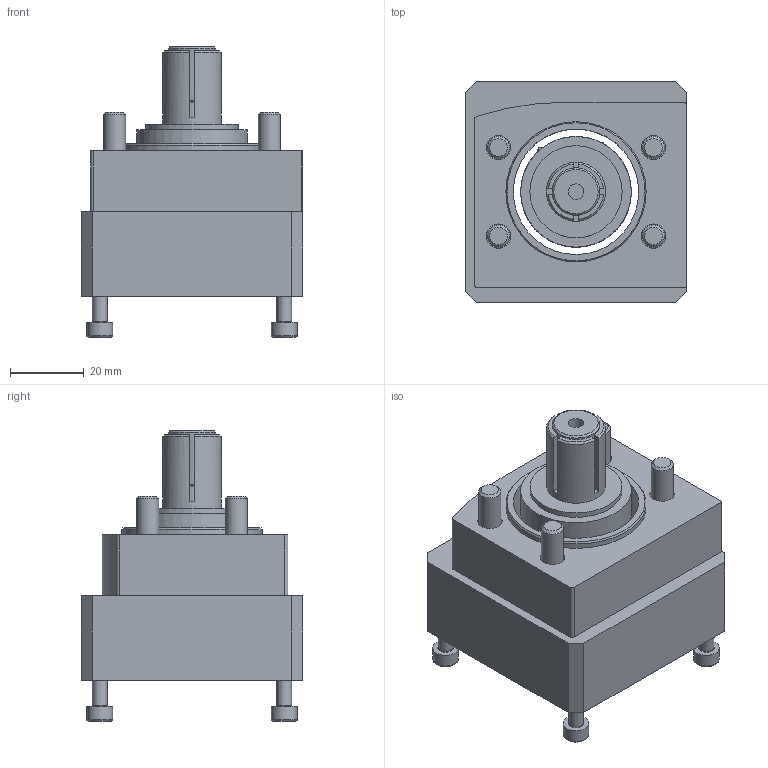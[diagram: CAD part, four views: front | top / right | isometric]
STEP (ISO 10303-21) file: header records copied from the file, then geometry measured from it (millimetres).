
FILE_DESCRIPTION(/* description */ ('EAMK-A O - Coupling housing'),/* implementation_level */ '2;1');
FILE_NAME(/* name */ 'C:\STORE\ホームページ用データ\\X2\30E230FC30BF53D64ED830AD30C330C8\X0\_2016_2016.12.01_\X2\8A2D8A08590966F45206\X0\\3D_STEP\J08243B.stp',/* time_stamp */ '2016-12-01T10:38:42+09:00',/* author */ ('jp0tot'),/* organization */ (''),/* preprocessor_version */ 'ST-DEVELOPER v15.6',/* originating_system */ 'Autodesk Inventor 2015',/* authorisation */ '');
FILE_SCHEMA (('AUTOMOTIVE_DESIGN { 1 0 10303 214 3 1 1 }'));
Length unit declared in the file: millimetre
Products named in the file (8): 1345947_EAMK_A_N38_38D_1O_; 1345947_EAMK_A_N38_38D; MJS-30-ERD-10-collet-16; J08047A; コピー版 JIS B 1176 - M6 x 35; コピー版 JIS B 1176 - M4 x 15; J08243B
Bounding box: 60 x 60 x 78.65 mm (x, y, z)
Volume: 111449.9 mm3; surface area: 45224.7 mm2
Topology: 16 solids, 16 shells, 435 faces, 1014 edges, 620 vertices
Faces by surface type: plane 170, cone 96, cylinder 86, torus 67, bspline 16
Full cylindrical faces by diameter (mm): 3.242 x4, 3.3 x1, 4 x5, 4.2 x1, 4.5 x1, 5 x1, 6 x4, 6.6 x8, 6.75 x1, 7 x5, 7.5 x1, 8.5 x1, 9.5 x1, 10 x4, 11 x4, 16 x1, 25 x1, 30 x1, 34 x1, 36 x1, 38 x3
Entity records: 10764 total; most frequent: CARTESIAN_POINT 3093, DIRECTION 1629, ORIENTED_EDGE 1436, EDGE_CURVE 718, AXIS2_PLACEMENT_3D 710, VERTEX_POINT 484, EDGE_LOOP 466, CIRCLE 359
